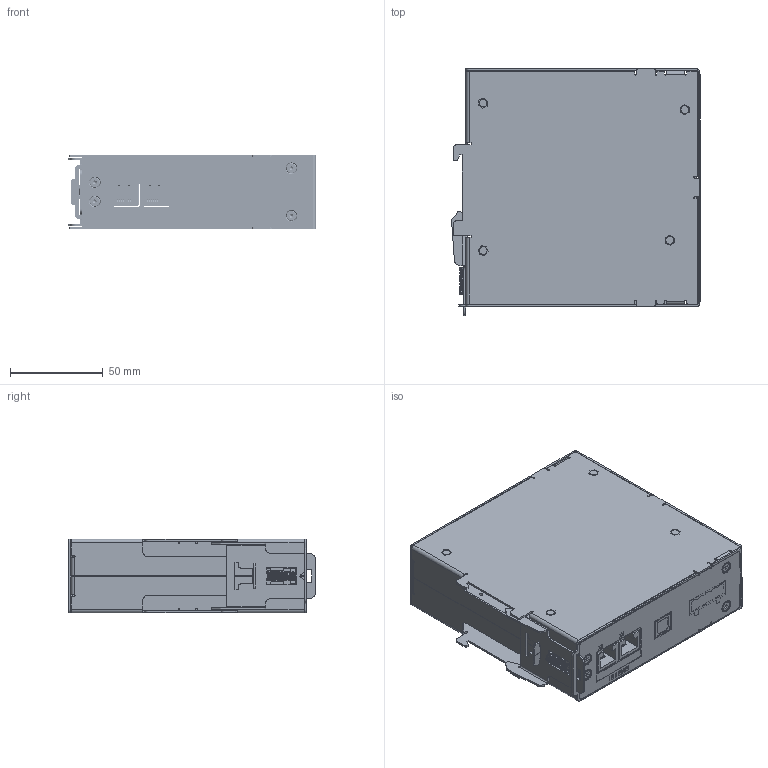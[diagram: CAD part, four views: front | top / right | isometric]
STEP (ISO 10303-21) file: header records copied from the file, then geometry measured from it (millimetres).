
FILE_DESCRIPTION (( 'STEP AP214' ), '1' );
FILE_NAME ('991-24578-00 Profinet Dumb Solid.STEP', '2023-02-15T22:58:00', ( '' ), ( '' ), 'SwSTEP 2.0', 'SolidWorks 2019', '' );
FILE_SCHEMA (( 'AUTOMOTIVE_DESIGN' ));
Length unit declared in the file: millimetre
Products named in the file (1): 991-24578-00 Profinet Dumb Solid
Bounding box: 134.14 x 133.35 x 39.6 mm (x, y, z)
Volume: 88904.9 mm3; surface area: 178605.1 mm2
Topology: 75 solids, 75 shells, 5335 faces, 14084 edges, 9123 vertices
Faces by surface type: plane 3326, cylinder 1507, bspline 245, cone 161, torus 80, sphere 16
Entity records: 239309 total; most frequent: CARTESIAN_POINT 48958, ORIENTED_EDGE 28104, DIRECTION 26831, EDGE_CURVE 14052, LINE 9911, VECTOR 9911, VERTEX_POINT 9123, AXIS2_PLACEMENT_3D 8460
